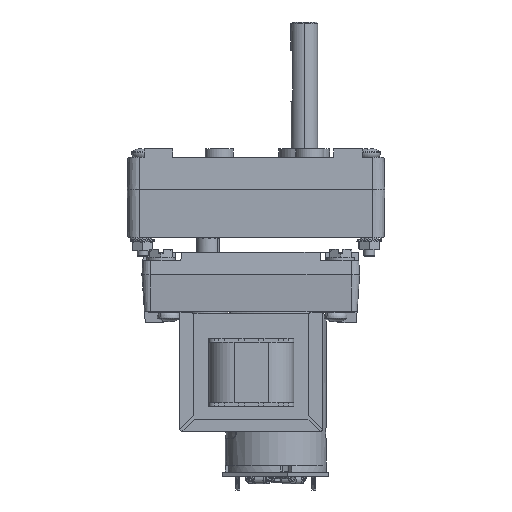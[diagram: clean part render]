
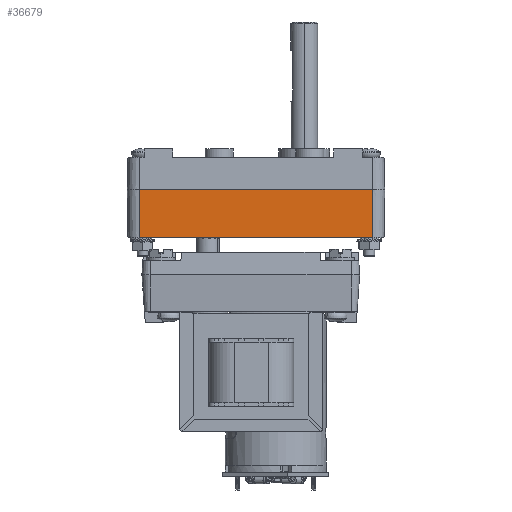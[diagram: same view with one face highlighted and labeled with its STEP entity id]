
A CAD part, left-side view. The second image highlights one B-rep face of the part: STEP entity #36679.
In plain terms, the highlighted planar face has unit normal (-1, 0, -0.016).
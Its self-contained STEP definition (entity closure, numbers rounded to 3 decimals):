
#693 = CARTESIAN_POINT ( 'NONE',  ( -38.022, 41.25, 17. ) ) ;
#2513 = EDGE_CURVE ( 'NONE', #41135, #11665, #49317, .T. ) ;
#4988 = CARTESIAN_POINT ( 'NONE',  ( -38.022, -41.25, 17. ) ) ;
#5684 = PLANE ( 'NONE',  #45667 ) ;
#9313 = ORIENTED_EDGE ( 'NONE', *, *, #47655, .T. ) ;
#9491 = CARTESIAN_POINT ( 'NONE',  ( -37.75, -41.25, 0. ) ) ;
#9586 = CARTESIAN_POINT ( 'NONE',  ( -37.75, 41.25, 0. ) ) ;
#10178 = LINE ( 'NONE', #43576, #36134 ) ;
#11665 = VERTEX_POINT ( 'NONE', #17042 ) ;
#11995 = ORIENTED_EDGE ( 'NONE', *, *, #2513, .F. ) ;
#12951 = CARTESIAN_POINT ( 'NONE',  ( -37.75, 41.25, 0. ) ) ;
#13713 = ORIENTED_EDGE ( 'NONE', *, *, #17671, .F. ) ;
#14019 = VECTOR ( 'NONE', #47740, 1000. ) ;
#17042 = CARTESIAN_POINT ( 'NONE',  ( -37.75, -41.25, 0. ) ) ;
#17671 = EDGE_CURVE ( 'NONE', #35652, #41135, #10178, .T. ) ;
#20548 = FACE_OUTER_BOUND ( 'NONE', #28974, .T. ) ;
#23009 = VERTEX_POINT ( 'NONE', #34091 ) ;
#25093 = DIRECTION ( 'NONE',  ( -1., 0., -0.016 ) ) ;
#28974 = EDGE_LOOP ( 'NONE', ( #38922, #11995, #13713, #9313 ) ) ;
#31677 = CARTESIAN_POINT ( 'NONE',  ( -37.75, 41.25, 0. ) ) ;
#31734 = DIRECTION ( 'NONE',  ( 0., -1., 0. ) ) ;
#32264 = EDGE_CURVE ( 'NONE', #23009, #11665, #34794, .T. ) ;
#34091 = CARTESIAN_POINT ( 'NONE',  ( -37.75, 41.25, 0. ) ) ;
#34523 = LINE ( 'NONE', #31677, #14019 ) ;
#34794 = LINE ( 'NONE', #12951, #36027 ) ;
#35652 = VERTEX_POINT ( 'NONE', #693 ) ;
#36027 = VECTOR ( 'NONE', #36404, 1000. ) ;
#36134 = VECTOR ( 'NONE', #31734, 1000. ) ;
#36404 = DIRECTION ( 'NONE',  ( 0., -1., 0. ) ) ;
#36500 = DIRECTION ( 'NONE',  ( 0.016, 0., -1. ) ) ;
#36679 = ADVANCED_FACE ( 'NONE', ( #20548 ), #5684, .T. ) ;
#38922 = ORIENTED_EDGE ( 'NONE', *, *, #32264, .T. ) ;
#41135 = VERTEX_POINT ( 'NONE', #4988 ) ;
#43576 = CARTESIAN_POINT ( 'NONE',  ( -38.022, 41.25, 17. ) ) ;
#45667 = AXIS2_PLACEMENT_3D ( 'NONE', #9586, #25093, #48056 ) ;
#46283 = VECTOR ( 'NONE', #36500, 1000. ) ;
#47655 = EDGE_CURVE ( 'NONE', #35652, #23009, #34523, .T. ) ;
#47740 = DIRECTION ( 'NONE',  ( 0.016, 0., -1. ) ) ;
#48056 = DIRECTION ( 'NONE',  ( 0.016, 0., -1. ) ) ;
#49317 = LINE ( 'NONE', #9491, #46283 ) ;
